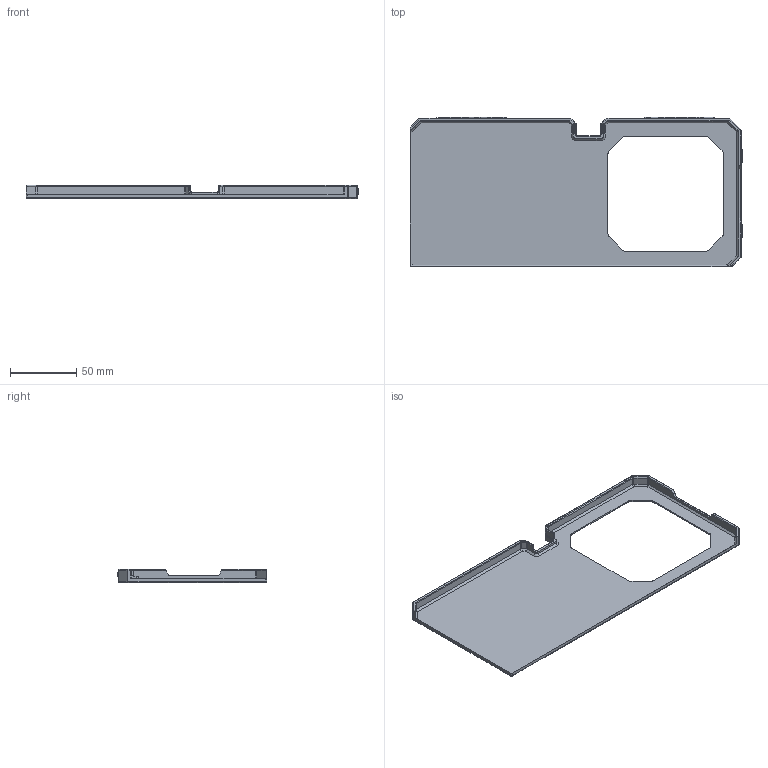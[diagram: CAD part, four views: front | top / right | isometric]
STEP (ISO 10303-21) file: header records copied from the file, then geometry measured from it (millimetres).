
FILE_DESCRIPTION((''),'2;1');
FILE_NAME('F306_MAKER_BACKPLATE','2023-04-25T13:54:02',('Kate'),(''),'CREO PARAMETRIC BY PTC INC, 2020281','CREO PARAMETRIC BY PTC INC, 2020281','');
FILE_SCHEMA(('CONFIG_CONTROL_DESIGN'));
Length unit declared in the file: millimetre
Products named in the file (1): F306_MAKER_BACKPLATE
Bounding box: 250.7 x 112.7 x 10 mm (x, y, z)
Volume: 42488.5 mm3; surface area: 50157.5 mm2
Topology: 1 solids, 1 shells, 1121 faces, 2874 edges, 1799 vertices
Faces by surface type: plane 584, cylinder 354, torus 92, cone 41, bspline 37, sphere 13
Entity records: 34806 total; most frequent: CARTESIAN_POINT 7458, ORIENTED_EDGE 5736, DIRECTION 5709, EDGE_CURVE 2868, AXIS2_PLACEMENT_3D 1946, VECTOR 1817, LINE 1817, VERTEX_POINT 1799
